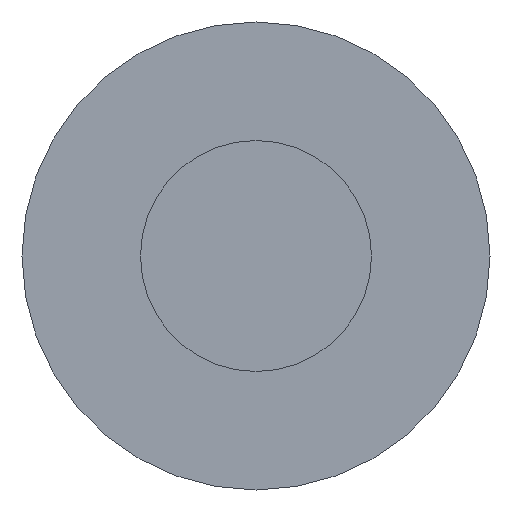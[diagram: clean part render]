
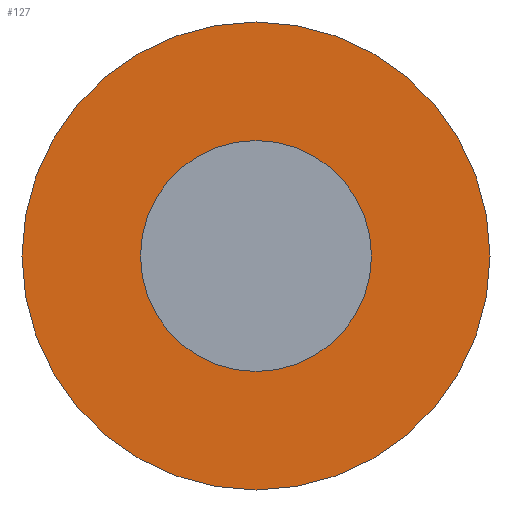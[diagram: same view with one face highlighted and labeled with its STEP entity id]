
A CAD part, front view. The second image highlights one B-rep face of the part: STEP entity #127.
In plain terms, the highlighted planar face has unit normal (0, -1, 0).
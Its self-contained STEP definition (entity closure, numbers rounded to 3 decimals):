
#49 = CYLINDRICAL_SURFACE('',#50,3.);
#50 = AXIS2_PLACEMENT_3D('',#51,#52,#53);
#51 = CARTESIAN_POINT('',(27.,-27.3,34.5));
#52 = DIRECTION('',(0.,1.,0.));
#53 = DIRECTION('',(0.,-0.,1.));
#74 = VERTEX_POINT('',#75);
#75 = CARTESIAN_POINT('',(27.,-27.3,37.5));
#96 = EDGE_CURVE('',#74,#74,#97,.T.);
#97 = SURFACE_CURVE('',#98,(#103,#110),.PCURVE_S1.);
#98 = CIRCLE('',#99,3.);
#99 = AXIS2_PLACEMENT_3D('',#100,#101,#102);
#100 = CARTESIAN_POINT('',(27.,-27.3,34.5));
#101 = DIRECTION('',(0.,1.,0.));
#102 = DIRECTION('',(0.,-0.,1.));
#103 = PCURVE('',#49,#104);
#104 = DEFINITIONAL_REPRESENTATION('',(#105),#109);
#105 = LINE('',#106,#107);
#106 = CARTESIAN_POINT('',(0.,0.));
#107 = VECTOR('',#108,1.);
#108 = DIRECTION('',(1.,0.));
#109 = ( GEOMETRIC_REPRESENTATION_CONTEXT(2) 
PARAMETRIC_REPRESENTATION_CONTEXT() REPRESENTATION_CONTEXT('2D SPACE',''
  ) );
#110 = PCURVE('',#111,#116);
#111 = PLANE('',#112);
#112 = AXIS2_PLACEMENT_3D('',#113,#114,#115);
#113 = CARTESIAN_POINT('',(27.,-27.3,34.5));
#114 = DIRECTION('',(0.,1.,0.));
#115 = DIRECTION('',(0.,-0.,1.));
#116 = DEFINITIONAL_REPRESENTATION('',(#117),#121);
#117 = CIRCLE('',#118,3.);
#118 = AXIS2_PLACEMENT_2D('',#119,#120);
#119 = CARTESIAN_POINT('',(0.,0.));
#120 = DIRECTION('',(1.,0.));
#121 = ( GEOMETRIC_REPRESENTATION_CONTEXT(2) 
PARAMETRIC_REPRESENTATION_CONTEXT() REPRESENTATION_CONTEXT('2D SPACE',''
  ) );
#127 = ADVANCED_FACE('',(#128,#131),#111,.F.);
#128 = FACE_BOUND('',#129,.F.);
#129 = EDGE_LOOP('',(#130));
#130 = ORIENTED_EDGE('',*,*,#96,.T.);
#131 = FACE_BOUND('',#132,.F.);
#132 = EDGE_LOOP('',(#133));
#133 = ORIENTED_EDGE('',*,*,#134,.F.);
#134 = EDGE_CURVE('',#135,#135,#137,.T.);
#135 = VERTEX_POINT('',#136);
#136 = CARTESIAN_POINT('',(27.,-27.3,35.98));
#137 = SURFACE_CURVE('',#138,(#143,#150),.PCURVE_S1.);
#138 = CIRCLE('',#139,1.48);
#139 = AXIS2_PLACEMENT_3D('',#140,#141,#142);
#140 = CARTESIAN_POINT('',(27.,-27.3,34.5));
#141 = DIRECTION('',(0.,1.,0.));
#142 = DIRECTION('',(0.,-0.,1.));
#143 = PCURVE('',#111,#144);
#144 = DEFINITIONAL_REPRESENTATION('',(#145),#149);
#145 = CIRCLE('',#146,1.48);
#146 = AXIS2_PLACEMENT_2D('',#147,#148);
#147 = CARTESIAN_POINT('',(0.,0.));
#148 = DIRECTION('',(1.,0.));
#149 = ( GEOMETRIC_REPRESENTATION_CONTEXT(2) 
PARAMETRIC_REPRESENTATION_CONTEXT() REPRESENTATION_CONTEXT('2D SPACE',''
  ) );
#150 = PCURVE('',#151,#156);
#151 = CYLINDRICAL_SURFACE('',#152,1.48);
#152 = AXIS2_PLACEMENT_3D('',#153,#154,#155);
#153 = CARTESIAN_POINT('',(27.,-33.3,34.5));
#154 = DIRECTION('',(0.,1.,0.));
#155 = DIRECTION('',(0.,-0.,1.));
#156 = DEFINITIONAL_REPRESENTATION('',(#157),#161);
#157 = LINE('',#158,#159);
#158 = CARTESIAN_POINT('',(0.,6.));
#159 = VECTOR('',#160,1.);
#160 = DIRECTION('',(1.,0.));
#161 = ( GEOMETRIC_REPRESENTATION_CONTEXT(2) 
PARAMETRIC_REPRESENTATION_CONTEXT() REPRESENTATION_CONTEXT('2D SPACE',''
  ) );
